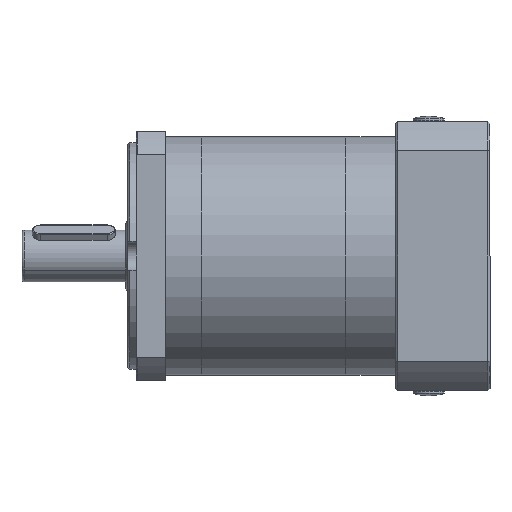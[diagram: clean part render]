
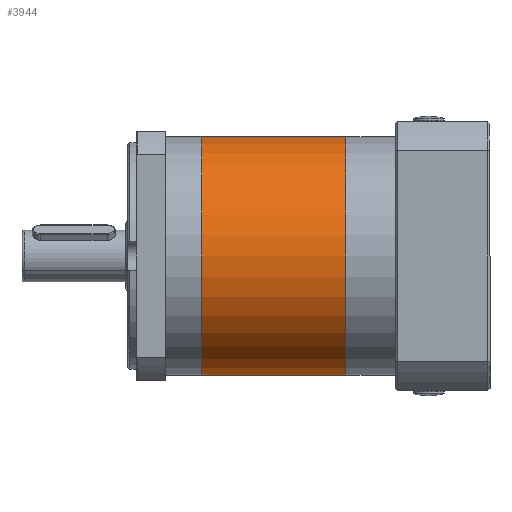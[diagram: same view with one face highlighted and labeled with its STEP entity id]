
A CAD part, front view. The second image highlights one B-rep face of the part: STEP entity #3944.
In plain terms, the highlighted cylindrical face has radius 57.5 mm (diameter 115 mm), a partial arc.
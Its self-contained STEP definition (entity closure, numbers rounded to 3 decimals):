
#235 = AXIS2_PLACEMENT_3D ( 'NONE', #12884, #995, #9807 ) ;
#995 = DIRECTION ( 'NONE',  ( -1., 0., 0. ) ) ;
#1808 = LINE ( 'NONE', #18557, #14587 ) ;
#3654 = ORIENTED_EDGE ( 'NONE', *, *, #29242, .T. ) ;
#3944 = ADVANCED_FACE ( 'NONE', ( #25769 ), #31704, .T. ) ;
#4784 = CARTESIAN_POINT ( 'NONE',  ( 105., 0., -57.5 ) ) ;
#5579 = CARTESIAN_POINT ( 'NONE',  ( 35.5, 0., 57.5 ) ) ;
#5912 = DIRECTION ( 'NONE',  ( 1., 0., 0. ) ) ;
#6704 = CARTESIAN_POINT ( 'NONE',  ( 35.5, 0., -57.5 ) ) ;
#9468 = DIRECTION ( 'NONE',  ( 1., 0., 0. ) ) ;
#9572 = AXIS2_PLACEMENT_3D ( 'NONE', #12805, #9468, #21260 ) ;
#9807 = DIRECTION ( 'NONE',  ( 0., 0., 1. ) ) ;
#10294 = AXIS2_PLACEMENT_3D ( 'NONE', #14610, #5912, #23841 ) ;
#10542 = VERTEX_POINT ( 'NONE', #6704 ) ;
#10920 = EDGE_LOOP ( 'NONE', ( #27494, #14486, #27622, #3654 ) ) ;
#12805 = CARTESIAN_POINT ( 'NONE',  ( 105., 0., 0. ) ) ;
#12884 = CARTESIAN_POINT ( 'NONE',  ( 105., 0., 0. ) ) ;
#14486 = ORIENTED_EDGE ( 'NONE', *, *, #29696, .F. ) ;
#14587 = VECTOR ( 'NONE', #21268, 1000. ) ;
#14610 = CARTESIAN_POINT ( 'NONE',  ( 35.5, 0., 0. ) ) ;
#17654 = VERTEX_POINT ( 'NONE', #5579 ) ;
#18557 = CARTESIAN_POINT ( 'NONE',  ( 105., 0., 57.5 ) ) ;
#20063 = CIRCLE ( 'NONE', #9572, 57.5 ) ;
#21170 = DIRECTION ( 'NONE',  ( -1., 0., 0. ) ) ;
#21260 = DIRECTION ( 'NONE',  ( 0., 0., -1. ) ) ;
#21268 = DIRECTION ( 'NONE',  ( -1., 0., 0. ) ) ;
#21407 = VECTOR ( 'NONE', #21170, 1000. ) ;
#23841 = DIRECTION ( 'NONE',  ( 0., 0., -1. ) ) ;
#25769 = FACE_OUTER_BOUND ( 'NONE', #10920, .T. ) ;
#27494 = ORIENTED_EDGE ( 'NONE', *, *, #33873, .F. ) ;
#27559 = VERTEX_POINT ( 'NONE', #29018 ) ;
#27622 = ORIENTED_EDGE ( 'NONE', *, *, #31901, .T. ) ;
#29018 = CARTESIAN_POINT ( 'NONE',  ( 105., 0., 57.5 ) ) ;
#29170 = LINE ( 'NONE', #32410, #21407 ) ;
#29242 = EDGE_CURVE ( 'NONE', #17654, #10542, #30123, .T. ) ;
#29696 = EDGE_CURVE ( 'NONE', #27559, #30437, #20063, .T. ) ;
#30123 = CIRCLE ( 'NONE', #10294, 57.5 ) ;
#30437 = VERTEX_POINT ( 'NONE', #4784 ) ;
#31704 = CYLINDRICAL_SURFACE ( 'NONE', #235, 57.5 ) ;
#31901 = EDGE_CURVE ( 'NONE', #27559, #17654, #1808, .T. ) ;
#32410 = CARTESIAN_POINT ( 'NONE',  ( 105., 0., -57.5 ) ) ;
#33873 = EDGE_CURVE ( 'NONE', #30437, #10542, #29170, .T. ) ;
